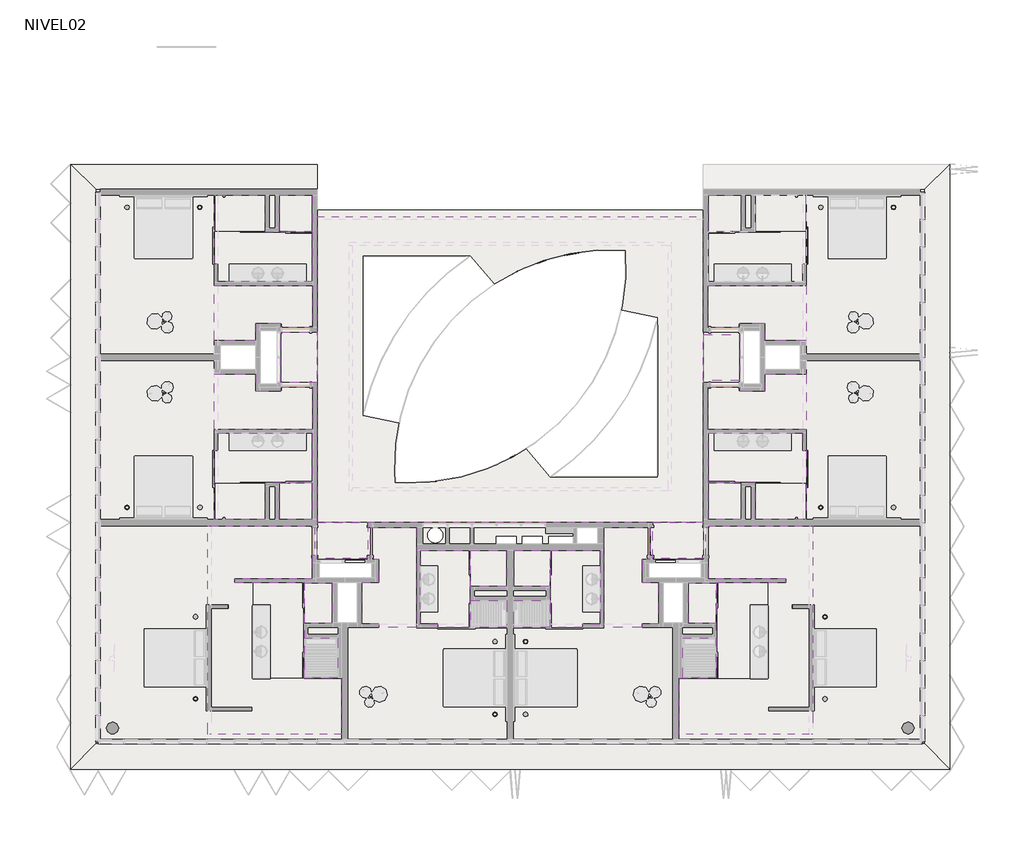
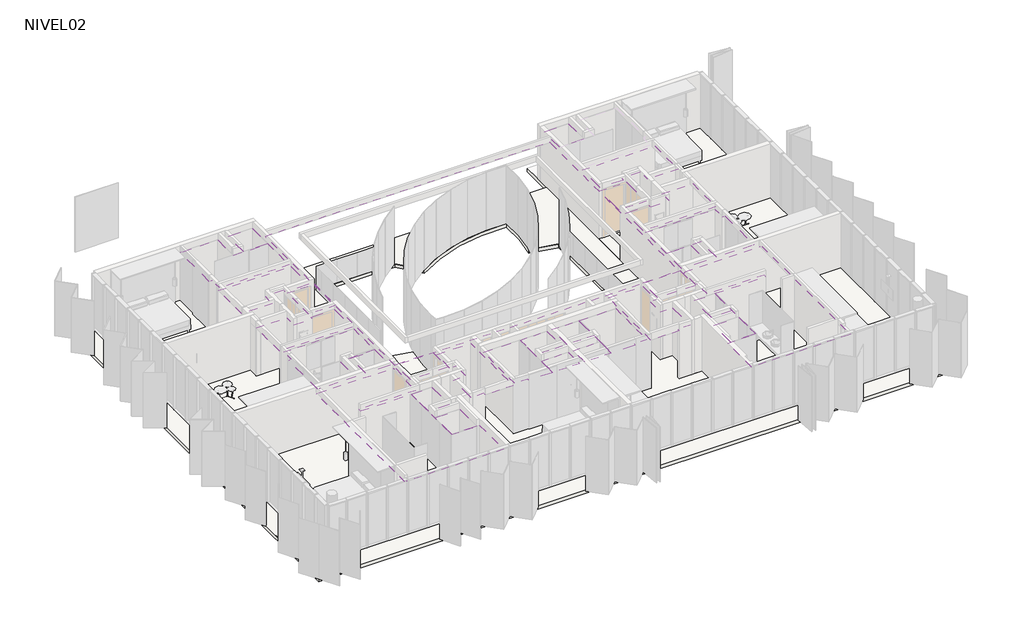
# One storey, part 8 of 9: 30 coverings, 26 slabs.
"""IFC4 building model written with IfcOpenShell, lengths in millimetres."""

from ifc_helpers import new_model, si_unit, point, frame, frame_2d, origin, place, context, project, spatial, polyline, circle_curve, trimmed, segment, composite_curve, outline, extrude, faceted_brep, element, save

model = new_model("IFC4")

# Units and contexts
model_context = context("Model", 3, world=origin())
ifc_project = project(units=[si_unit("LENGTHUNIT", "METRE", prefix="MILLI")], contexts=[model_context])

# Site, building, storey
site = spatial("IfcSite", under=ifc_project)
building = spatial("IfcBuilding", under=site)
storey = spatial("IfcBuildingStorey", under=building, Name="NIVEL02", Elevation=2500.0)

# Coverings
placement = place(None, origin())
element("IfcCovering", 1, ObjectType="CI_VOLCANITA-ST", at=placement, inside=storey, context=model_context, shape_type="Brep", body=[
    faceted_brep([(-16848.5934748, 10423.9139241, 4805.0), (-16848.5934748, 8173.9139241, 4805.0), (-16738.5934748, 8173.9139241, 4805.0), (-16728.5934748, 8173.9139241, 4805.0), (-16728.5934748, 7603.9139241, 4805.0), (-13643.5934748, 7603.9139241, 4805.0), (-13643.5934748, 9233.9139241, 4805.0), (-15183.5934748, 9233.9139241, 4805.0), (-15183.5934748, 10423.9139241, 4805.0), (-16738.5934748, 10423.9139241, 4805.0), (-16848.5934748, 10423.9139241, 4750.0), (-16738.5934748, 10423.9139241, 4750.0), (-15183.5934748, 10423.9139241, 4750.0), (-15183.5934748, 9233.9139241, 4750.0), (-13643.5934748, 9233.9139241, 4750.0), (-13643.5934748, 7603.9139241, 4750.0), (-16728.5934748, 7603.9139241, 4750.0), (-16728.5934748, 8173.9139241, 4750.0), (-16848.5934748, 8173.9139241, 4750.0)], [[[0, 1, 2, 3, 4, 5, 6, 7, 8, 9]], [[10, 11, 12, 13, 14, 15, 16, 17, 18]], [[0, 9, 8, 12, 11, 10]], [[8, 7, 13, 12]], [[7, 6, 14, 13]], [[6, 5, 15, 14]], [[5, 4, 16, 15]], [[4, 3, 17, 16]], [[3, 2, 1, 18, 17]], [[1, 0, 10, 18]]]),
])
element("IfcCovering", 2, ObjectType="CI_VOLCANITA-RH", at=placement, inside=storey, context=model_context, shape_type="SweptSolid", body=[
    extrude(outline(polyline([(-14723.5934748, 10423.9139241), (-13643.5934748, 10423.9139241), (-13643.5934748, 9233.9139241), (-14723.5934748, 9233.9139241), (-14723.5934748, 10423.9139241)])), frame((0.0, 0.0, 4750.0), z_axis=(0.0, 0.0, 1.0), x_axis=(1.0, 0.0, 0.0)), (0.0, 0.0, 1.0), 55.0),
])
element("IfcCovering", 3, ObjectType="CI_VOLCANITA-ST", at=placement, inside=storey, context=model_context, shape_type="Brep", body=[
    faceted_brep([(-17053.5934748, -7185.2015033, 4805.0), (-16943.5934748, -7185.2015033, 4805.0), (-12683.5934748, -7185.2015033, 4805.0), (-12683.5934748, -5336.0862189, 4805.0), (-13913.5934748, -5336.0862189, 4805.0), (-13913.5934748, -2216.0860759, 4805.0), (-16173.5934748, -2216.0860759, 4805.0), (-16173.5934748, -2098.0860759, 4805.0), (-13643.5934748, -2098.0860759, 4805.0), (-13643.5934748, -1341.0860759, 4805.0), (-13568.5934748, -1341.0860759, 4805.0), (-13568.5934748, -426.0860759, 4805.0), (-13643.5934748, -426.0860759, 4805.0), (-13643.5934748, -366.0860759, 4805.0), (-16943.5934748, -366.0860759, 4805.0), (-17053.5934748, -366.0860759, 4805.0), (-17053.5934748, -2951.0658633, 4805.0), (-17053.5934748, -6411.0658633, 4805.0), (-17053.5934748, -7185.2015033, 4750.0), (-17053.5934748, -366.0860759, 4750.0), (-13643.5934748, -366.0860759, 4750.0), (-13643.5934748, -426.0860759, 4750.0), (-13568.5934748, -426.0860759, 4750.0), (-13568.5934748, -1341.0860759, 4750.0), (-13643.5934748, -1341.0860759, 4750.0), (-13643.5934748, -2098.0860759, 4750.0), (-16173.5934748, -2098.0860759, 4750.0), (-16173.5934748, -2216.0860759, 4750.0), (-13913.5934748, -2216.0860759, 4750.0), (-13913.5934748, -5336.0862189, 4750.0), (-12683.5934748, -5336.0862189, 4750.0), (-12683.5934748, -7185.2015033, 4750.0)], [[[0, 1, 2, 3, 4, 5, 6, 7, 8, 9, 10, 11, 12, 13, 14, 15, 16, 17]], [[18, 19, 20, 21, 22, 23, 24, 25, 26, 27, 28, 29, 30, 31]], [[2, 1, 0, 18, 31]], [[3, 2, 31, 30]], [[4, 3, 30, 29]], [[5, 4, 29, 28]], [[6, 5, 28, 27]], [[7, 6, 27, 26]], [[8, 7, 26, 25]], [[9, 8, 25, 24]], [[10, 9, 24, 23]], [[11, 10, 23, 22]], [[12, 11, 22, 21]], [[13, 12, 21, 20]], [[15, 14, 13, 20, 19]], [[0, 17, 16, 15, 19, 18]]]),
])
element("IfcCovering", 4, ObjectType="CI_VOLCANITA-RH", at=placement, inside=storey, context=model_context, shape_type="SweptSolid", body=[
    extrude(outline(polyline([(-12993.5934748, -3556.0862189), (-13913.6434748, -3556.0862189), (-13913.6434748, -2226.0860759), (-12993.5934748, -2226.0860759), (-12993.5934748, -3556.0862189)])), frame((0.0, 0.0, 4750.0), z_axis=(0.0, 0.0, 1.0), x_axis=(1.0, 0.0, 0.0)), (0.0, 0.0, 1.0), 55.0),
])
element("IfcCovering", 5, ObjectType="CI_VOLCANITA-RH", at=placement, inside=storey, context=model_context, shape_type="SweptSolid", body=[
    extrude(outline(polyline([(-12813.5934748, -4036.0862189), (-12813.5934748, -5336.1362189), (-13913.6434748, -5336.1362189), (-13913.6434748, -4036.0862189), (-12813.5934748, -4036.0862189)])), frame((0.0, 0.0, 4750.0), z_axis=(0.0, 0.0, 1.0), x_axis=(1.0, 0.0, 0.0)), (0.0, 0.0, 1.0), 55.0),
])
element("IfcCovering", 6, ObjectType="CI_VOLCANITA-ST", at=placement, inside=storey, context=model_context, shape_type="Brep", body=[
    faceted_brep([(2686.4065252, -7185.2015033, 4805.0), (2686.4065252, -6411.0658633, 4805.0), (2686.4065252, -2951.0658633, 4805.0), (2686.4065252, -366.0860759, 4805.0), (2576.4065252, -366.0860759, 4805.0), (-723.5934748, -366.0860759, 4805.0), (-723.5934748, -426.0860759, 4805.0), (-798.5934748, -426.0860759, 4805.0), (-798.5934748, -1341.0860759, 4805.0), (-723.5934748, -1341.0860759, 4805.0), (-723.5934748, -2098.0860759, 4805.0), (1806.4065252, -2098.0860759, 4805.0), (1806.4065252, -2216.0860759, 4805.0), (-453.5934748, -2216.0860759, 4805.0), (-453.5934748, -5336.0862189, 4805.0), (-1683.5934748, -5336.0862189, 4805.0), (-1683.5934748, -7185.2015033, 4805.0), (2576.4065252, -7185.2015033, 4805.0), (2686.4065252, -7185.2015033, 4750.0), (-1683.5934748, -7185.2015033, 4750.0), (-1683.5934748, -5336.0862189, 4750.0), (-453.5934748, -5336.0862189, 4750.0), (-453.5934748, -2216.0860759, 4750.0), (1806.4065252, -2216.0860759, 4750.0), (1806.4065252, -2098.0860759, 4750.0), (-723.5934748, -2098.0860759, 4750.0), (-723.5934748, -1341.0860759, 4750.0), (-798.5934748, -1341.0860759, 4750.0), (-798.5934748, -426.0860759, 4750.0), (-723.5934748, -426.0860759, 4750.0), (-723.5934748, -366.0860759, 4750.0), (2686.4065252, -366.0860759, 4750.0)], [[[0, 1, 2, 3, 4, 5, 6, 7, 8, 9, 10, 11, 12, 13, 14, 15, 16, 17]], [[18, 19, 20, 21, 22, 23, 24, 25, 26, 27, 28, 29, 30, 31]], [[0, 17, 16, 19, 18]], [[16, 15, 20, 19]], [[15, 14, 21, 20]], [[14, 13, 22, 21]], [[13, 12, 23, 22]], [[12, 11, 24, 23]], [[11, 10, 25, 24]], [[10, 9, 26, 25]], [[9, 8, 27, 26]], [[8, 7, 28, 27]], [[7, 6, 29, 28]], [[6, 5, 30, 29]], [[5, 4, 3, 31, 30]], [[3, 2, 1, 0, 18, 31]]]),
])
element("IfcCovering", 7, ObjectType="CI_VOLCANITA-RH", at=placement, inside=storey, context=model_context, shape_type="SweptSolid", body=[
    extrude(outline(polyline([(-1373.5934748, -3556.0862189), (-1373.5934748, -2226.0860759), (-453.5434748, -2226.0860759), (-453.5434748, -3556.0862189), (-1373.5934748, -3556.0862189)])), frame((0.0, 0.0, 4750.0), z_axis=(0.0, 0.0, 1.0), x_axis=(1.0, 0.0, 0.0)), (0.0, 0.0, 1.0), 55.0),
])
element("IfcCovering", 8, ObjectType="CI_VOLCANITA-RH", at=placement, inside=storey, context=model_context, shape_type="SweptSolid", body=[
    extrude(outline(polyline([(-1553.5934748, -4036.0862189), (-453.5434748, -4036.0862189), (-453.5434748, -5336.1362189), (-1553.5934748, -5336.1362189), (-1553.5934748, -4036.0862189)])), frame((0.0, 0.0, 4750.0), z_axis=(0.0, 0.0, 1.0), x_axis=(1.0, 0.0, 0.0)), (0.0, 0.0, 1.0), 55.0),
])
element("IfcCovering", 9, ObjectType="CI_VOLCANITA-ST", at=placement, inside=storey, context=model_context, shape_type="SweptSolid", body=[
    extrude(outline(polyline([(-8483.5947993, -1176.0860759), (-8483.5947993, -3686.0862189), (-9543.5934748, -3686.0862189), (-9543.5934748, -3586.0862189), (-10113.5934748, -3586.0862189), (-10113.5934748, -1176.0860759), (-8483.5947993, -1176.0860759)])), frame((0.0, 0.0, 4750.0), z_axis=(0.0, 0.0, 1.0), x_axis=(1.0, 0.0, 0.0)), (0.0, 0.0, 1.0), 55.0),
])
element("IfcCovering", 10, ObjectType="CI_VOLCANITA-RH", at=placement, inside=storey, context=model_context, shape_type="SweptSolid", body=[
    extrude(outline(polyline([(-8483.5947993, -2346.0860759), (-8483.5947993, -1176.0860759), (-7293.5934748, -1176.0860759), (-7293.5934748, -2346.0860759), (-8483.5947993, -2346.0860759)])), frame((0.0, 0.0, 4750.0), z_axis=(0.0, 0.0, 1.0), x_axis=(1.0, 0.0, 0.0)), (0.0, 0.0, 1.0), 55.0),
])
element("IfcCovering", 11, ObjectType="CI_VOLCANITA-RH", at=placement, inside=storey, context=model_context, shape_type="Brep", body=[
    faceted_brep([(-7293.5934748, -3686.0862189, 4805.0), (-7293.5934748, -3566.0862189, 4805.0), (-7293.5934748, -2806.0860759, 4805.0), (-8483.5947993, -2806.0860759, 4805.0), (-8483.5947993, -3686.0862189, 4805.0), (-7293.5934748, -3686.0862189, 4750.0), (-8483.5947993, -3686.0862189, 4750.0), (-8483.5947993, -2806.0860759, 4750.0), (-7293.5934748, -2806.0860759, 4750.0), (-7293.5934748, -3566.0862189, 4750.0)], [[[0, 1, 2, 3, 4]], [[5, 6, 7, 8, 9]], [[2, 1, 0, 5, 9, 8]], [[3, 2, 8, 7]], [[4, 3, 7, 6]], [[0, 4, 6, 5]]]),
])
element("IfcCovering", 12, ObjectType="CI_VOLCANITA-ST", at=placement, inside=storey, context=model_context, shape_type="SweptSolid", body=[
    extrude(outline(polyline([(-5883.5921504, -1176.0860759), (-4253.5934748, -1176.0860759), (-4253.5934748, -3586.0862189), (-4823.5934748, -3586.0862189), (-4823.5934748, -3686.0862189), (-5883.5921504, -3686.0862189), (-5883.5921504, -1176.0860759)])), frame((0.0, 0.0, 4750.0), z_axis=(0.0, 0.0, 1.0), x_axis=(1.0, 0.0, 0.0)), (0.0, 0.0, 1.0), 55.0),
])
element("IfcCovering", 13, ObjectType="CI_VOLCANITA-RH", at=placement, inside=storey, context=model_context, shape_type="SweptSolid", body=[
    extrude(outline(polyline([(-5883.5921504, -2346.0860759), (-7073.5934748, -2346.0860759), (-7073.5934748, -1176.0860759), (-5883.5921504, -1176.0860759), (-5883.5921504, -2346.0860759)])), frame((0.0, 0.0, 4750.0), z_axis=(0.0, 0.0, 1.0), x_axis=(1.0, 0.0, 0.0)), (0.0, 0.0, 1.0), 55.0),
])
element("IfcCovering", 14, ObjectType="CI_VOLCANITA-RH", at=placement, inside=storey, context=model_context, shape_type="Brep", body=[
    faceted_brep([(-7073.5934748, -3686.0862189, 4805.0), (-5883.5921504, -3686.0862189, 4805.0), (-5883.5921504, -2806.0860759, 4805.0), (-7073.5934748, -2806.0860759, 4805.0), (-7073.5934748, -3566.0862189, 4805.0), (-7073.5934748, -3686.0862189, 4750.0), (-7073.5934748, -3566.0862189, 4750.0), (-7073.5934748, -2806.0860759, 4750.0), (-5883.5921504, -2806.0860759, 4750.0), (-5883.5921504, -3686.0862189, 4750.0)], [[[0, 1, 2, 3, 4]], [[5, 6, 7, 8, 9]], [[0, 4, 3, 7, 6, 5]], [[3, 2, 8, 7]], [[2, 1, 9, 8]], [[1, 0, 5, 9]]]),
])
element("IfcCovering", 15, ObjectType="CI_VOLCANITA-ST", at=placement, inside=storey, context=model_context, shape_type="Brep", body=[
    faceted_brep([(-13483.5934748, 9733.9139241, 4805.0), (-13483.5934748, 9623.9139241, 4805.0), (-13483.5934748, -266.0860759, 4805.0), (-883.5934748, -266.0860759, 4805.0), (-883.5934748, 9623.9139241, 4805.0), (-883.5934748, 9733.9139241, 4805.0), (-12333.5934748, 8783.9139241, 4805.0), (-2033.5934748, 8783.9139241, 4805.0), (-2033.5934748, 883.9139241, 4805.0), (-12333.5934748, 883.9139241, 4805.0), (-13483.5934748, 9733.9139241, 4750.0), (-883.5934748, 9733.9139241, 4750.0), (-883.5934748, -266.0860759, 4750.0), (-13483.5934748, -266.0860759, 4750.0), (-12333.5934748, 8783.9139241, 4750.0), (-12333.5934748, 883.9139241, 4750.0), (-2033.5934748, 883.9139241, 4750.0), (-2033.5934748, 8783.9139241, 4750.0)], [[[0, 1, 2, 3, 4, 5], [6, 7, 8, 9]], [[10, 11, 12, 13], [14, 15, 16, 17]], [[7, 6, 14, 17]], [[8, 7, 17, 16]], [[9, 8, 16, 15]], [[6, 9, 15, 14]], [[2, 1, 0, 10, 13]], [[3, 2, 13, 12]], [[5, 4, 3, 12, 11]], [[0, 5, 11, 10]]]),
])
element("IfcCovering", 16, ObjectType="CI_HUNTER DOUGLAS", at=placement, inside=storey, context=model_context, shape_type="SweptSolid", body=[
    extrude(outline(polyline([(306.4065252, 5883.9139241), (306.4065252, 4383.9139241), (-883.5934748, 4383.9139241), (-883.5934748, 5883.9139241), (306.4065252, 5883.9139241)])), frame((0.0, 0.0, 4800.0), z_axis=(0.0, 0.0, 1.0), x_axis=(1.0, 0.0, 0.0)), (0.0, 0.0, 1.0), 55.0),
])
element("IfcCovering", 17, ObjectType="CI_HUNTER DOUGLAS", at=placement, inside=storey, context=model_context, shape_type="SweptSolid", body=[
    extrude(outline(polyline([(-883.5934748, -266.0860759), (-883.5934748, -1438.0860759), (-2533.5934748, -1438.0860759), (-2533.5934748, -266.0860759), (-883.5934748, -266.0860759)])), frame((0.0, 0.0, 4800.0), z_axis=(0.0, 0.0, 1.0), x_axis=(1.0, 0.0, 0.0)), (0.0, 0.0, 1.0), 55.0),
])
element("IfcCovering", 18, ObjectType="CI_HUNTER DOUGLAS", at=placement, inside=storey, context=model_context, shape_type="SweptSolid", body=[
    extrude(outline(polyline([(-14673.5934748, 5958.9139241), (-13483.5934748, 5958.9139241), (-13483.5934748, 4308.9139241), (-14673.5934748, 4308.9139241), (-14673.5934748, 5958.9139241)])), frame((0.0, 0.0, 4800.0), z_axis=(0.0, 0.0, 1.0), x_axis=(1.0, 0.0, 0.0)), (0.0, 0.0, 1.0), 55.0),
])
element("IfcCovering", 19, ObjectType="CI_HUNTER DOUGLAS", at=placement, inside=storey, context=model_context, shape_type="SweptSolid", body=[
    extrude(outline(polyline([(-11833.5934748, -266.0860759), (-11833.5934748, -1438.0860759), (-13483.5934748, -1438.0860759), (-13483.5934748, -266.0860759), (-11833.5934748, -266.0860759)])), frame((0.0, 0.0, 4800.0), z_axis=(0.0, 0.0, 1.0), x_axis=(1.0, 0.0, 0.0)), (0.0, 0.0, 1.0), 55.0),
])
element("IfcCovering", 20, ObjectType="CI_VOLCANITA-RH", at=placement, inside=storey, context=model_context, shape_type="SweptSolid", body=[
    extrude(outline(polyline([(356.4065252, 10423.9139241), (356.4065252, 9233.9139241), (-723.5934748, 9233.9139241), (-723.5934748, 10423.9139241), (356.4065252, 10423.9139241)])), frame((0.0, 0.0, 4750.0), z_axis=(0.0, 0.0, 1.0), x_axis=(1.0, 0.0, 0.0)), (0.0, 0.0, 1.0), 55.0),
])
element("IfcCovering", 21, ObjectType="CI_VOLCANITA-ST", at=placement, inside=storey, context=model_context, shape_type="Brep", body=[
    faceted_brep([(-16848.5934748, -156.0860759, 4805.0), (-16738.5934748, -156.0860759, 4805.0), (-15183.5934748, -156.0860759, 4805.0), (-15183.5934748, 1033.9139241, 4805.0), (-13643.5934748, 1033.9139241, 4805.0), (-13643.5934748, 2663.9139241, 4805.0), (-16728.5934748, 2663.9139241, 4805.0), (-16728.5934748, 2093.9139241, 4805.0), (-16738.5934748, 2093.9139241, 4805.0), (-16848.5934748, 2093.9139241, 4805.0), (-16848.5934748, -156.0860759, 4750.0), (-16848.5934748, 2093.9139241, 4750.0), (-16728.5934748, 2093.9139241, 4750.0), (-16728.5934748, 2663.9139241, 4750.0), (-13643.5934748, 2663.9139241, 4750.0), (-13643.5934748, 1033.9139241, 4750.0), (-15183.5934748, 1033.9139241, 4750.0), (-15183.5934748, -156.0860759, 4750.0), (-16738.5934748, -156.0860759, 4750.0)], [[[0, 1, 2, 3, 4, 5, 6, 7, 8, 9]], [[10, 11, 12, 13, 14, 15, 16, 17, 18]], [[2, 1, 0, 10, 18, 17]], [[3, 2, 17, 16]], [[4, 3, 16, 15]], [[5, 4, 15, 14]], [[6, 5, 14, 13]], [[7, 6, 13, 12]], [[9, 8, 7, 12, 11]], [[0, 9, 11, 10]]]),
])
element("IfcCovering", 22, ObjectType="CI_VOLCANITA-RH", at=placement, inside=storey, context=model_context, shape_type="SweptSolid", body=[
    extrude(outline(polyline([(-14723.5934748, -156.0860759), (-14723.5934748, 1033.9139241), (-13643.5934748, 1033.9139241), (-13643.5934748, -156.0860759), (-14723.5934748, -156.0860759)])), frame((0.0, 0.0, 4750.0), z_axis=(0.0, 0.0, 1.0), x_axis=(1.0, 0.0, 0.0)), (0.0, 0.0, 1.0), 55.0),
])
element("IfcCovering", 23, ObjectType="CI_VOLCANITA-ST", at=placement, inside=storey, context=model_context, shape_type="Brep", body=[
    faceted_brep([(2481.4065252, -156.0860759, 4805.0), (2481.4065252, 2093.9139241, 4805.0), (2371.4065252, 2093.9139241, 4805.0), (2361.4065252, 2093.9139241, 4805.0), (2361.4065252, 2663.9139241, 4805.0), (-723.5934748, 2663.9139241, 4805.0), (-723.5934748, 1033.9139241, 4805.0), (816.4065252, 1033.9139241, 4805.0), (816.4065252, -156.0860759, 4805.0), (2371.4065252, -156.0860759, 4805.0), (2481.4065252, -156.0860759, 4750.0), (2371.4065252, -156.0860759, 4750.0), (816.4065252, -156.0860759, 4750.0), (816.4065252, 1033.9139241, 4750.0), (-723.5934748, 1033.9139241, 4750.0), (-723.5934748, 2663.9139241, 4750.0), (2361.4065252, 2663.9139241, 4750.0), (2361.4065252, 2093.9139241, 4750.0), (2481.4065252, 2093.9139241, 4750.0)], [[[0, 1, 2, 3, 4, 5, 6, 7, 8, 9]], [[10, 11, 12, 13, 14, 15, 16, 17, 18]], [[0, 9, 8, 12, 11, 10]], [[8, 7, 13, 12]], [[7, 6, 14, 13]], [[6, 5, 15, 14]], [[5, 4, 16, 15]], [[4, 3, 17, 16]], [[3, 2, 1, 18, 17]], [[1, 0, 10, 18]]]),
])
element("IfcCovering", 24, ObjectType="CI_VOLCANITA-RH", at=placement, inside=storey, context=model_context, shape_type="SweptSolid", body=[
    extrude(outline(polyline([(356.4065252, -156.0860759), (-723.5934748, -156.0860759), (-723.5934748, 1033.9139241), (356.4065252, 1033.9139241), (356.4065252, -156.0860759)])), frame((0.0, 0.0, 4750.0), z_axis=(0.0, 0.0, 1.0), x_axis=(1.0, 0.0, 0.0)), (0.0, 0.0, 1.0), 55.0),
])
element("IfcCovering", 25, ObjectType="CI_VOLCANITA-ST", at=placement, inside=storey, context=model_context, shape_type="SweptSolid", body=[
    extrude(outline(polyline([(-16848.5934748, 5683.9139241), (-16848.5934748, 7483.9139241), (-13633.5934748, 7483.9139241), (-13633.5934748, 6108.9139241), (-14673.5934748, 6108.9139241), (-14673.5934748, 6233.9139241), (-15493.5934748, 6233.9139241), (-15493.5934748, 5683.9139241), (-16848.5934748, 5683.9139241)])), frame((0.0, 0.0, 4750.0), z_axis=(0.0, 0.0, 1.0), x_axis=(1.0, 0.0, 0.0)), (0.0, 0.0, 1.0), 55.0),
])
element("IfcCovering", 26, ObjectType="CI_VOLCANITA-ST", at=placement, inside=storey, context=model_context, shape_type="SweptSolid", body=[
    extrude(outline(polyline([(2481.4065252, 5683.9139241), (1126.4065252, 5683.9139241), (1126.4065252, 6233.9139241), (306.4065252, 6233.9139241), (306.4065252, 6108.9139241), (-733.5934748, 6108.9139241), (-733.5934748, 7483.9139241), (2481.4065252, 7483.9139241), (2481.4065252, 5683.9139241)])), frame((0.0, 0.0, 4750.0), z_axis=(0.0, 0.0, 1.0), x_axis=(1.0, 0.0, 0.0)), (0.0, 0.0, 1.0), 55.0),
])
element("IfcCovering", 27, ObjectType="CI_VOLCANITA-ST", at=placement, inside=storey, context=model_context, shape_type="SweptSolid", body=[
    extrude(outline(polyline([(-16848.5934748, 4583.9139241), (-15493.5934748, 4583.9139241), (-15493.5934748, 4033.9139241), (-14673.5934748, 4033.9139241), (-14673.5934748, 4158.9139241), (-13633.5934748, 4158.9139241), (-13633.5934748, 2783.9139241), (-16848.5934748, 2783.9139241), (-16848.5934748, 4583.9139241)])), frame((0.0, 0.0, 4750.0), z_axis=(0.0, 0.0, 1.0), x_axis=(1.0, 0.0, 0.0)), (0.0, 0.0, 1.0), 55.0),
])
element("IfcCovering", 28, ObjectType="CI_VOLCANITA-ST", at=placement, inside=storey, context=model_context, shape_type="SweptSolid", body=[
    extrude(outline(polyline([(2481.4065252, 4583.9139241), (2481.4065252, 2783.9139241), (-733.5934748, 2783.9139241), (-733.5934748, 4158.9139241), (306.4065252, 4158.9139241), (306.4065252, 4033.9139241), (1126.4065252, 4033.9139241), (1126.4065252, 4583.9139241), (2481.4065252, 4583.9139241)])), frame((0.0, 0.0, 4750.0), z_axis=(0.0, 0.0, 1.0), x_axis=(1.0, 0.0, 0.0)), (0.0, 0.0, 1.0), 55.0),
])
element("IfcCovering", 29, ObjectType="CI_VOLCANITA-ST", at=placement, inside=storey, context=model_context, shape_type="SweptSolid", body=[
    extrude(outline(polyline([(-10233.5934748, -416.0860759), (-10233.5934748, -1066.0860759), (-10233.5934748, -3686.0862189), (-11483.5934748, -3686.0862189), (-11483.5934748, -3571.0862189), (-12033.5934748, -3571.0862189), (-12033.5934748, -2216.0860759), (-11483.5934748, -2216.0860759), (-11483.5934748, -1466.0860759), (-11758.5934748, -1466.0860759), (-11758.5934748, -416.0860759), (-10233.5934748, -416.0860759)])), frame((0.0, 0.0, 4750.0), z_axis=(0.0, 0.0, 1.0), x_axis=(1.0, 0.0, 0.0)), (0.0, 0.0, 1.0), 55.0),
])
element("IfcCovering", 30, ObjectType="CI_VOLCANITA-ST", at=placement, inside=storey, context=model_context, shape_type="SweptSolid", body=[
    extrude(outline(polyline([(-2608.5934748, -416.0860759), (-2608.5934748, -1466.0860759), (-2883.5934748, -1466.0860759), (-2883.5934748, -2216.0860759), (-2333.5934748, -2216.0860759), (-2333.5934748, -3571.0862189), (-2883.5934748, -3571.0862189), (-2883.5934748, -3686.0862189), (-4133.5934748, -3686.0862189), (-4133.5934748, -1066.0860759), (-4133.5934748, -416.0860759), (-2608.5934748, -416.0860759)])), frame((0.0, 0.0, 4750.0), z_axis=(0.0, 0.0, 1.0), x_axis=(1.0, 0.0, 0.0)), (0.0, 0.0, 1.0), 55.0),
])

# Slabs
element("IfcSlab", 31, ObjectType="PAV-PORCELANATO BAÑOS", at=placement, inside=storey, context=model_context, shape_type="SweptSolid", body=[
    extrude(outline(polyline([(-16848.5934748, 9233.9139241), (-14733.5934748, 9233.9139241), (-14733.5934748, 10433.9139241), (-13633.5934748, 10433.9139241), (-13633.5934748, 7593.9139241), (-16738.5934748, 7593.9139241), (-16738.5934748, 8173.9139241), (-16848.5934748, 8173.9139241), (-16848.5934748, 9233.9139241)])), frame((0.0, 0.0, 2480.0), z_axis=(0.0, 0.0, 1.0), x_axis=(1.0, 0.0, 0.0)), (0.0, 0.0, 1.0), 20.0),
])
element("IfcSlab", 32, ObjectType="PAV-PORCELANATO BAÑOS", at=placement, inside=storey, context=model_context, shape_type="SweptSolid", body=[
    extrude(outline(polyline([(-4243.5934748, -1166.0860759), (-4243.5934748, -3596.0862189), (-4823.5934748, -3596.0862189), (-4823.5934748, -3706.0862189), (-5883.5921504, -3706.0862189), (-5883.5921504, -2366.0860759), (-7083.5934748, -2366.0860759), (-7083.5934748, -1166.0860759), (-4243.5934748, -1166.0860759)])), frame((0.0, 0.0, 2480.0), z_axis=(0.0, 0.0, 1.0), x_axis=(1.0, 0.0, 0.0)), (0.0, 0.0, 1.0), 20.0),
])
element("IfcSlab", 33, ObjectType="PAV-PORCELANATO BAÑOS", at=placement, inside=storey, context=model_context, shape_type="SweptSolid", body=[
    extrude(outline(polyline([(-10123.5934748, -1166.0860759), (-7283.5934748, -1166.0860759), (-7283.5934748, -2366.0860759), (-8483.5947993, -2366.0860759), (-8483.5947993, -3706.0862189), (-9543.5934748, -3706.0862189), (-9543.5934748, -3596.0862189), (-10123.5934748, -3596.0862189), (-10123.5934748, -1166.0860759)])), frame((0.0, 0.0, 2480.0), z_axis=(0.0, 0.0, 1.0), x_axis=(1.0, 0.0, 0.0)), (0.0, 0.0, 1.0), 20.0),
])
element("IfcSlab", 34, ObjectType="PAV-PORCELANATO BAÑOS", at=placement, inside=storey, context=model_context, shape_type="SweptSolid", body=[
    extrude(outline(polyline([(-1383.5934748, -2216.0860759), (1226.4065252, -2216.0860759), (1226.4065252, -5348.5862189), (-453.5934748, -5348.5862189), (-453.5934748, -3596.0862189), (-1383.5934748, -3596.0862189), (-1383.5934748, -2216.0860759)])), frame((0.0, 0.0, 2480.0), z_axis=(0.0, 0.0, 1.0), x_axis=(1.0, 0.0, 0.0)), (0.0, 0.0, 1.0), 20.0),
])
element("IfcSlab", 35, ObjectType="PAV-PORCELANATO BAÑOS", at=placement, inside=storey, context=model_context, shape_type="SweptSolid", body=[
    extrude(outline(polyline([(-12983.5934748, -2216.0860759), (-12983.5934748, -3596.0862189), (-13913.5934748, -3596.0862189), (-13913.5934748, -5348.5862189), (-15593.5934748, -5348.5862189), (-15593.5934748, -2216.0860759), (-12983.5934748, -2216.0860759)])), frame((0.0, 0.0, 2480.0), z_axis=(0.0, 0.0, 1.0), x_axis=(1.0, 0.0, 0.0)), (0.0, 0.0, 1.0), 20.0),
])
element("IfcSlab", 36, ObjectType="PAV-PORCELANATO PUBLICO", at=placement, inside=storey, context=model_context, shape_type="SweptSolid", body=[
    extrude(outline(polyline([(-13483.5934748, 9933.9139241), (-883.5934748, 9933.9139241), (-883.5934748, -266.0860759), (-13483.5934748, -266.0860759), (-13483.5934748, 9933.9139241)]), holes=[composite_curve([segment(polyline([(-5883.5934748, 1233.9139241), (-2383.5934748, 1233.9139241), (-2383.5934748, 6437.3029809), (-3558.4829159, 6681.6568471)]), True, "CONTINUOUS"), segment(trimmed(circle_curve(frame_2d((-10466.2912985, 8080.0545331)), 7047.9310964), [point((-3558.4829159, 6681.6568471))], [point((-3439.1164565, 8620.5602956))], True, "CARTESIAN"), True, "CONTINUOUS"), segment(trimmed(circle_curve(frame_2d((-3900.8956512, 1587.773315)), 7047.9310964), [point((-3439.1164565, 8620.5602956))], [point((-7708.2892685, 7518.8007624))], True, "CARTESIAN"), True, "CONTINUOUS"), segment(polyline([(-7708.2892685, 7518.8007624), (-8483.5934748, 8433.9139241), (-11983.5934748, 8433.9139241), (-11983.5934748, 3230.5248672), (-10808.7040338, 2986.171001)]), True, "CONTINUOUS"), segment(trimmed(circle_curve(frame_2d((-3900.8956512, 1587.773315)), 7047.9310964), [point((-10808.7040338, 2986.171001))], [point((-10928.0704932, 1047.2675525))], True, "CARTESIAN"), True, "CONTINUOUS"), segment(trimmed(circle_curve(frame_2d((-10466.2912985, 8080.0545331)), 7047.9310964), [point((-10928.0704932, 1047.2675525))], [point((-6658.8976812, 2149.0270857))], True, "CARTESIAN"), True, "CONTINUOUS"), segment(polyline([(-6658.8976812, 2149.0270857), (-5883.5934748, 1233.9139241)]), True, "CONTINUOUS")], self_intersect=False)]), frame((0.0, 0.0, 2480.0), z_axis=(0.0, 0.0, 1.0), x_axis=(1.0, 0.0, 0.0)), (0.0, 0.0, 1.0), 20.0),
])
element("IfcSlab", 37, ObjectType="PAV-PORCELANATO BAÑOS", at=placement, inside=storey, context=model_context, shape_type="SweptSolid", body=[
    extrude(outline(polyline([(2481.4065252, 9233.9139241), (2481.4065252, 8173.9139241), (2371.4065252, 8173.9139241), (2371.4065252, 7593.9139241), (-733.5934748, 7593.9139241), (-733.5934748, 10433.9139241), (366.4065252, 10433.9139241), (366.4065252, 9233.9139241), (2481.4065252, 9233.9139241)])), frame((0.0, 0.0, 2480.0), z_axis=(0.0, 0.0, 1.0), x_axis=(1.0, 0.0, 0.0)), (0.0, 0.0, 1.0), 20.0),
])
element("IfcSlab", 38, ObjectType="PAV-PORCELANATO BAÑOS", at=placement, inside=storey, context=model_context, shape_type="SweptSolid", body=[
    extrude(outline(polyline([(-16848.5934748, 1033.9139241), (-16848.5934748, 2093.9139241), (-16738.5934748, 2093.9139241), (-16738.5934748, 2673.9139241), (-13633.5934748, 2673.9139241), (-13633.5934748, -166.0860759), (-14733.5934748, -166.0860759), (-14733.5934748, 1033.9139241), (-16848.5934748, 1033.9139241)])), frame((0.0, 0.0, 2480.0), z_axis=(0.0, 0.0, 1.0), x_axis=(1.0, 0.0, 0.0)), (0.0, 0.0, 1.0), 20.0),
])
element("IfcSlab", 39, ObjectType="PAV-PORCELANATO BAÑOS", at=placement, inside=storey, context=model_context, shape_type="SweptSolid", body=[
    extrude(outline(polyline([(2481.4065252, 1033.9139241), (366.4065252, 1033.9139241), (366.4065252, -166.0860759), (-733.5934748, -166.0860759), (-733.5934748, 2673.9139241), (2371.4065252, 2673.9139241), (2371.4065252, 2093.9139241), (2481.4065252, 2093.9139241), (2481.4065252, 1033.9139241)])), frame((0.0, 0.0, 2480.0), z_axis=(0.0, 0.0, 1.0), x_axis=(1.0, 0.0, 0.0)), (0.0, 0.0, 1.0), 20.0),
])
element("IfcSlab", 40, ObjectType="LOSA-150mm", at=placement, inside=storey, context=model_context, shape_type="SweptSolid", body=[
    extrude(outline(polyline([(7166.4065252, 11433.9139241), (7166.4065252, -8316.0860759), (-21533.5934748, -8316.0860759), (-21533.5934748, 11433.9139241), (-13483.5934748, 11433.9139241), (-13483.5934748, 9933.9139241), (-883.5934748, 9933.9139241), (-883.5934748, 11433.9139241), (7166.4065252, 11433.9139241)]), holes=[composite_curve([segment(polyline([(-11983.5934748, 8433.9139241), (-11983.5934748, 3230.5248672), (-10808.7040338, 2986.171001)]), True, "CONTINUOUS"), segment(trimmed(circle_curve(frame_2d((-3900.8956512, 1587.773315)), 7047.9310964), [point((-10808.7040338, 2986.171001))], [point((-10928.0704932, 1047.2675525))], True, "CARTESIAN"), True, "CONTINUOUS"), segment(trimmed(circle_curve(frame_2d((-10466.2912985, 8080.0545331)), 7047.9310964), [point((-10928.0704932, 1047.2675525))], [point((-6658.8976812, 2149.0270857))], True, "CARTESIAN"), True, "CONTINUOUS"), segment(polyline([(-6658.8976812, 2149.0270857), (-5883.5934748, 1233.9139241), (-2383.5934748, 1233.9139241), (-2383.5934748, 6437.3029809), (-3558.5568432, 6681.2917105)]), True, "CONTINUOUS"), segment(trimmed(circle_curve(frame_2d((-10466.2912985, 8080.0545331)), 7047.9310964), [point((-3558.5568432, 6681.2917105))], [point((-3439.1164565, 8620.5602956))], True, "CARTESIAN"), True, "CONTINUOUS"), segment(trimmed(circle_curve(frame_2d((-3900.8956512, 1587.773315)), 7047.9310964), [point((-3439.1164565, 8620.5602956))], [point((-7708.2892685, 7518.8007624))], True, "CARTESIAN"), True, "CONTINUOUS"), segment(polyline([(-7708.2892685, 7518.8007624), (-8483.5934748, 8433.9139241), (-11983.5934748, 8433.9139241)]), True, "CONTINUOUS")], self_intersect=False), composite_curve([segment(trimmed(circle_curve(frame_2d((-9631.0934748, -676.0860759)), 250.0), [point((-9881.0934748, -676.0860759))], [point((-9381.0934748, -676.0860759))], True, "CARTESIAN"), True, "CONTINUOUS"), segment(trimmed(circle_curve(frame_2d((-9631.0934748, -676.0860759)), 250.0), [point((-9381.0934748, -676.0860759))], [point((-9881.0934748, -676.0860759))], True, "CARTESIAN"), True, "CONTINUOUS")], self_intersect=False), polyline([(-5133.5934748, -716.0860759), (-5933.5934748, -716.0860759), (-5933.5934748, -966.0860759), (-5133.5934748, -966.0860759), (-5133.5934748, -716.0860759)]), polyline([(-5013.5934748, -386.0860759), (-5013.5934748, -966.0860759), (-4333.5934748, -966.0860759), (-4333.5934748, -386.0860759), (-5013.5934748, -386.0860759)]), polyline([(-7638.5934748, -716.0860759), (-7638.5934748, -966.0860759), (-6988.5934748, -966.0860759), (-6988.5934748, -716.0860759), (-7638.5934748, -716.0860759)]), polyline([(-6788.5934748, -716.0860759), (-6788.5934748, -966.0860759), (-6138.5934748, -966.0860759), (-6138.5934748, -716.0860759), (-6788.5934748, -716.0860759)]), polyline([(-16648.5934748, 4733.9139241), (-15493.5934748, 4733.9139241), (-15493.5934748, 5533.9139241), (-16648.5934748, 5533.9139241), (-16648.5934748, 4733.9139241)]), polyline([(-14783.5934748, 6013.9139241), (-15343.5934748, 6013.9139241), (-15343.5934748, 4253.9139241), (-14783.5934748, 4253.9139241), (-14783.5934748, 6013.9139241)]), polyline([(-11703.5934748, -1576.0860759), (-13423.5934748, -1576.0860759), (-13423.5934748, -2066.0860759), (-11703.5934748, -2066.0860759), (-11703.5934748, -1576.0860759)]), polyline([(-12183.5934748, -3536.0862189), (-12183.5934748, -2216.0860759), (-12833.5934748, -2216.0860759), (-12833.5934748, -3536.0862189), (-12183.5934748, -3536.0862189)]), polyline([(2281.4065252, 4733.9139241), (2281.4065252, 5533.9139241), (1126.4065252, 5533.9139241), (1126.4065252, 4733.9139241), (2281.4065252, 4733.9139241)]), polyline([(416.4065252, 6013.9139241), (416.4065252, 4253.9139241), (976.4065252, 4253.9139241), (976.4065252, 6013.9139241), (416.4065252, 6013.9139241)]), polyline([(-2663.5934748, -1576.0860759), (-2663.5934748, -2066.0860759), (-943.5934748, -2066.0860759), (-943.5934748, -1576.0860759), (-2663.5934748, -1576.0860759)]), polyline([(-2183.5934748, -3536.0862189), (-1533.5934748, -3536.0862189), (-1533.5934748, -2216.0860759), (-2183.5934748, -2216.0860759), (-2183.5934748, -3536.0862189)])]), frame((0.0, 0.0, 2330.0), z_axis=(0.0, 0.0, 1.0), x_axis=(1.0, 0.0, 0.0)), (0.0, 0.0, 1.0), 150.0),
])
element("IfcSlab", 41, ObjectType="PAV-MADERA", at=placement, inside=storey, context=model_context, shape_type="SweptSolid", body=[
    extrude(outline(polyline([(-16848.5934748, 10433.9139241), (-16848.5934748, 7483.9139241), (-13633.5934748, 7483.9139241), (-13633.5934748, 6108.9139241), (-13733.5934748, 6108.9139241), (-13733.5934748, 6033.9139241), (-14648.5934748, 6033.9139241), (-14648.5934748, 6233.9139241), (-15493.5934748, 6233.9139241), (-15493.5934748, 5683.9139241), (-16848.5934748, 5683.9139241), (-16848.5934748, 5233.9139241), (-20558.5934748, 5233.9139241), (-20558.5934748, 10433.9139241), (-16848.5934748, 10433.9139241)])), frame((0.0, 0.0, 2480.0), z_axis=(0.0, 0.0, 1.0), x_axis=(1.0, 0.0, 0.0)), (0.0, 0.0, 1.0), 20.0),
])
element("IfcSlab", 42, ObjectType="PAV-MADERA", at=placement, inside=storey, context=model_context, shape_type="SweptSolid", body=[
    extrude(outline(polyline([(-4133.5934748, -386.0860759), (-2683.5934748, -386.0860759), (-2683.5934748, -426.0860759), (-2608.5934748, -426.0860759), (-2608.5934748, -1341.0860759), (-2683.5934748, -1341.0860759), (-2683.5934748, -1466.0860759), (-2883.5934748, -1466.0860759), (-2883.5934748, -2216.0860759), (-2333.5934748, -2216.0860759), (-2333.5934748, -3571.0862189), (-2883.5934748, -3571.0862189), (-2883.5934748, -3686.0862189), (-1883.5934748, -3686.0862189), (-1883.5934748, -7341.0860759), (-7083.5934748, -7341.0860759), (-7083.5934748, -3706.0862189), (-4133.5934748, -3706.0862189), (-4133.5934748, -386.0860759)])), frame((0.0, 0.0, 2480.0), z_axis=(0.0, 0.0, 1.0), x_axis=(1.0, 0.0, 0.0)), (0.0, 0.0, 1.0), 20.0),
])
element("IfcSlab", 43, ObjectType="PAV-MADERA", at=placement, inside=storey, context=model_context, shape_type="SweptSolid", body=[
    extrude(outline(polyline([(-10233.5934748, -386.0860759), (-10233.5934748, -3706.0862189), (-7283.5934748, -3706.0862189), (-7283.5934748, -7341.0860759), (-12483.5934748, -7341.0860759), (-12483.5934748, -3686.0862189), (-11483.5934748, -3686.0862189), (-11483.5934748, -3571.0862189), (-12033.5934748, -3571.0862189), (-12033.5934748, -2216.0860759), (-11483.5934748, -2216.0860759), (-11483.5934748, -1466.0860759), (-11683.5934748, -1466.0860759), (-11683.5934748, -1341.0860759), (-11758.5934748, -1341.0860759), (-11758.5934748, -426.0860759), (-11683.5934748, -426.0860759), (-11683.5934748, -386.0860759), (-10233.5934748, -386.0860759)])), frame((0.0, 0.0, 2480.0), z_axis=(0.0, 0.0, 1.0), x_axis=(1.0, 0.0, 0.0)), (0.0, 0.0, 1.0), 20.0),
])
element("IfcSlab", 44, ObjectType="PAV-MADERA", at=placement, inside=storey, context=model_context, shape_type="SweptSolid", body=[
    extrude(outline(polyline([(6191.4065252, -366.0860759), (6191.4065252, -7341.0860759), (-1683.5934748, -7341.0860759), (-1683.5934748, -5348.5862189), (1226.4065252, -5348.5862189), (1226.4065252, -2216.0860759), (1806.4065252, -2216.0860759), (1806.4065252, -2106.0860759), (-723.5934748, -2106.0860759), (-723.5934748, -1341.0860759), (-798.5934748, -1341.0860759), (-798.5934748, -366.0860759), (6191.4065252, -366.0860759)]), holes=[polyline([(2686.4065252, -6411.0658633), (2686.4065252, -2951.0658633), (2026.4065252, -2951.0658633), (2026.4065252, -3061.0658633), (2576.4065252, -3061.0658633), (2576.4065252, -6301.0658633), (1257.7462079, -6301.0658633), (1257.7462079, -6411.0658633), (2686.4065252, -6411.0658633)])]), frame((0.0, 0.0, 2480.0), z_axis=(0.0, 0.0, 1.0), x_axis=(1.0, 0.0, 0.0)), (0.0, 0.0, 1.0), 20.0),
])
element("IfcSlab", 45, ObjectType="PAV-MADERA", at=placement, inside=storey, context=model_context, shape_type="SweptSolid", body=[
    extrude(outline(polyline([(-20558.5934748, -366.0860759), (-13568.5934748, -366.0860759), (-13568.5934748, -1341.0860759), (-13643.5934748, -1341.0860759), (-13643.5934748, -2106.0860759), (-16173.5934748, -2106.0860759), (-16173.5934748, -2216.0860759), (-15593.5934748, -2216.0860759), (-15593.5934748, -5348.5862189), (-12683.5934748, -5348.5862189), (-12683.5934748, -7341.0860759), (-20558.5934748, -7341.0860759), (-20558.5934748, -366.0860759)]), holes=[polyline([(-17053.5934748, -6411.0658633), (-15624.9331576, -6411.0658633), (-15624.9331576, -6301.0658633), (-16943.5934748, -6301.0658633), (-16943.5934748, -3061.0658633), (-16393.5934748, -3061.0658633), (-16393.5934748, -2951.0658633), (-17053.5934748, -2951.0658633), (-17053.5934748, -6411.0658633)])]), frame((0.0, 0.0, 2480.0), z_axis=(0.0, 0.0, 1.0), x_axis=(1.0, 0.0, 0.0)), (0.0, 0.0, 1.0), 20.0),
])
element("IfcSlab", 46, ObjectType="PAV-MADERA", at=placement, inside=storey, context=model_context, shape_type="SweptSolid", body=[
    extrude(outline(polyline([(2481.4065252, 10433.9139241), (6191.4065252, 10433.9139241), (6191.4065252, 5233.9139241), (2481.4065252, 5233.9139241), (2481.4065252, 5683.9139241), (1126.4065252, 5683.9139241), (1126.4065252, 6233.9139241), (281.4065252, 6233.9139241), (281.4065252, 6033.9139241), (-633.5934748, 6033.9139241), (-633.5934748, 6108.9139241), (-733.5934748, 6108.9139241), (-733.5934748, 7483.9139241), (2481.4065252, 7483.9139241), (2481.4065252, 10433.9139241)])), frame((0.0, 0.0, 2480.0), z_axis=(0.0, 0.0, 1.0), x_axis=(1.0, 0.0, 0.0)), (0.0, 0.0, 1.0), 20.0),
])
element("IfcSlab", 47, ObjectType="PAV-MADERA", at=placement, inside=storey, context=model_context, shape_type="SweptSolid", body=[
    extrude(outline(polyline([(-16848.5934748, -166.0860759), (-20558.5934748, -166.0860759), (-20558.5934748, 5033.9139241), (-16848.5934748, 5033.9139241), (-16848.5934748, 4583.9139241), (-15493.5934748, 4583.9139241), (-15493.5934748, 4033.9139241), (-14648.5934748, 4033.9139241), (-14648.5934748, 4233.9139241), (-13733.5934748, 4233.9139241), (-13733.5934748, 4158.9139241), (-13633.5934748, 4158.9139241), (-13633.5934748, 2783.9139241), (-16848.5934748, 2783.9139241), (-16848.5934748, -166.0860759)])), frame((0.0, 0.0, 2480.0), z_axis=(0.0, 0.0, 1.0), x_axis=(1.0, 0.0, 0.0)), (0.0, 0.0, 1.0), 20.0),
])
element("IfcSlab", 48, ObjectType="PAV-MADERA", at=placement, inside=storey, context=model_context, shape_type="SweptSolid", body=[
    extrude(outline(polyline([(2481.4065252, -166.0860759), (2481.4065252, 2783.9139241), (-733.5934748, 2783.9139241), (-733.5934748, 4158.9139241), (-633.5934748, 4158.9139241), (-633.5934748, 4233.9139241), (281.4065252, 4233.9139241), (281.4065252, 4033.9139241), (1126.4065252, 4033.9139241), (1126.4065252, 4583.9139241), (2481.4065252, 4583.9139241), (2481.4065252, 5033.9139241), (6191.4065252, 5033.9139241), (6191.4065252, -166.0860759), (2481.4065252, -166.0860759)])), frame((0.0, 0.0, 2480.0), z_axis=(0.0, 0.0, 1.0), x_axis=(1.0, 0.0, 0.0)), (0.0, 0.0, 1.0), 20.0),
])
element("IfcSlab", 49, ObjectType="PAV-PORCELANATO EXTERIOR", at=placement, inside=storey, context=model_context, shape_type="SweptSolid", body=[
    extrude(outline(polyline([(-21533.5934748, 11433.9139241), (-13483.5934748, 11433.9139241), (-13483.5934748, 10633.9139241), (-20708.5934748, 10633.9139241), (-21533.5934748, 11433.9139241)])), frame((0.0, 0.0, 2480.0), z_axis=(0.0, 0.0, 1.0), x_axis=(1.0, 0.0, 0.0)), (0.0, 0.0, 1.0), 20.0),
])
element("IfcSlab", 50, ObjectType="PAV-PORCELANATO EXTERIOR", at=placement, inside=storey, context=model_context, shape_type="SweptSolid", body=[
    extrude(outline(polyline([(-20708.5934748, 793.5361565), (-20708.5934748, -7491.0860759), (-21533.5934748, -8316.0860759), (-21533.5934748, 11433.9139241), (-20708.5934748, 10633.9139241), (-20708.5934748, 793.5361565)])), frame((0.0, 0.0, 2480.0), z_axis=(0.0, 0.0, 1.0), x_axis=(1.0, 0.0, 0.0)), (0.0, 0.0, 1.0), 20.0),
])
element("IfcSlab", 51, ObjectType="PAV-PORCELANATO EXTERIOR", at=placement, inside=storey, context=model_context, shape_type="SweptSolid", body=[
    extrude(outline(polyline([(6341.4065252, 793.5361565), (6341.4065252, 10633.9139241), (7166.4065252, 11433.9139241), (7166.4065252, -8316.0860759), (6341.4065252, -7491.0860759), (6341.4065252, 793.5361565)])), frame((0.0, 0.0, 2480.0), z_axis=(0.0, 0.0, 1.0), x_axis=(1.0, 0.0, 0.0)), (0.0, 0.0, 1.0), 20.0),
])
element("IfcSlab", 52, ObjectType="PAV-PORCELANATO EXTERIOR", at=placement, inside=storey, context=model_context, shape_type="SweptSolid", body=[
    extrude(outline(polyline([(6341.4065252, -7491.0860759), (7166.4065252, -8316.0860759), (-21533.5934748, -8316.0860759), (-20708.5934748, -7491.0860759), (6341.4065252, -7491.0860759)])), frame((0.0, 0.0, 2480.0), z_axis=(0.0, 0.0, 1.0), x_axis=(1.0, 0.0, 0.0)), (0.0, 0.0, 1.0), 20.0),
])
element("IfcSlab", 53, ObjectType="PAV-PORCELANATO EXTERIOR", at=placement, inside=storey, context=model_context, shape_type="SweptSolid", body=[
    extrude(outline(polyline([(-11833.5934748, -266.0860759), (-11833.5934748, -426.0860759), (-11758.5934748, -426.0860759), (-11758.5934748, -1341.0860759), (-11833.5934748, -1341.0860759), (-11833.5934748, -1466.0860759), (-13493.5934748, -1466.0860759), (-13493.5934748, -1341.0860759), (-13568.5934748, -1341.0860759), (-13568.5934748, -426.0860759), (-13483.5934748, -426.0860759), (-13483.5934748, -266.0860759), (-11833.5934748, -266.0860759)])), frame((0.0, 0.0, 2480.0), z_axis=(0.0, 0.0, 1.0), x_axis=(1.0, 0.0, 0.0)), (0.0, 0.0, 1.0), 20.0),
])
element("IfcSlab", 54, ObjectType="PAV-PORCELANATO EXTERIOR", at=placement, inside=storey, context=model_context, shape_type="SweptSolid", body=[
    extrude(outline(polyline([(-2533.5934748, -266.0860759), (-883.5934748, -266.0860759), (-883.5934748, -426.0860759), (-798.5934748, -426.0860759), (-798.5934748, -1341.0860759), (-873.5934748, -1341.0860759), (-873.5934748, -1466.0860759), (-2533.5934748, -1466.0860759), (-2533.5934748, -1341.0860759), (-2608.5934748, -1341.0860759), (-2608.5934748, -426.0860759), (-2533.5934748, -426.0860759), (-2533.5934748, -266.0860759)])), frame((0.0, 0.0, 2480.0), z_axis=(0.0, 0.0, 1.0), x_axis=(1.0, 0.0, 0.0)), (0.0, 0.0, 1.0), 20.0),
])
element("IfcSlab", 55, ObjectType="PAV-PORCELANATO EXTERIOR", at=placement, inside=storey, context=model_context, shape_type="SweptSolid", body=[
    extrude(outline(polyline([(-13733.5934748, 6033.9139241), (-13733.5934748, 5958.9139241), (-13483.5934748, 5958.9139241), (-13483.5934748, 4308.9139241), (-13733.5934748, 4308.9139241), (-13733.5934748, 4233.9139241), (-14648.5934748, 4233.9139241), (-14648.5934748, 4308.9139241), (-14668.5934748, 4308.9139241), (-14668.5934748, 5958.9139241), (-14648.5934748, 5958.9139241), (-14648.5934748, 6033.9139241), (-13733.5934748, 6033.9139241)])), frame((0.0, 0.0, 2480.0), z_axis=(0.0, 0.0, 1.0), x_axis=(1.0, 0.0, 0.0)), (0.0, 0.0, 1.0), 20.0),
])
element("IfcSlab", 56, ObjectType="PAV-PORCELANATO EXTERIOR", at=placement, inside=storey, context=model_context, shape_type="SweptSolid", body=[
    extrude(outline(polyline([(-633.5934748, 6033.9139241), (281.4065252, 6033.9139241), (281.4065252, 5958.9139241), (301.4065252, 5958.9139241), (301.4065252, 4308.9139241), (281.4065252, 4308.9139241), (281.4065252, 4233.9139241), (-633.5934748, 4233.9139241), (-633.5934748, 4308.9139241), (-883.5934748, 4308.9139241), (-883.5934748, 5958.9139241), (-633.5934748, 5958.9139241), (-633.5934748, 6033.9139241)])), frame((0.0, 0.0, 2480.0), z_axis=(0.0, 0.0, 1.0), x_axis=(1.0, 0.0, 0.0)), (0.0, 0.0, 1.0), 20.0),
])

save(model, "model.ifc")
